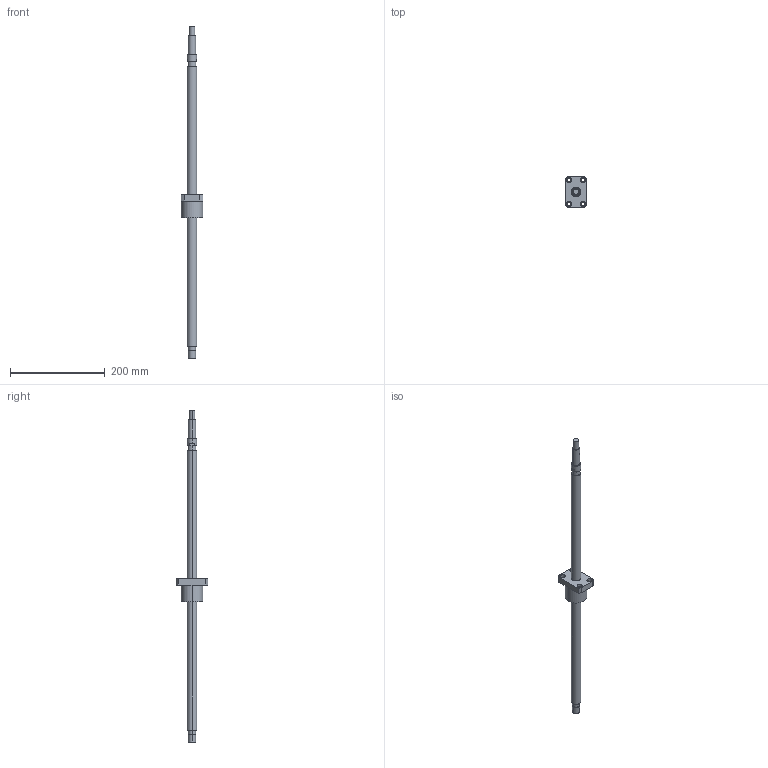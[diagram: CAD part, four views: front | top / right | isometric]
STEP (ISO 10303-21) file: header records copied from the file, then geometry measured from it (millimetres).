
FILE_DESCRIPTION((''),'2;1');
FILE_NAME('R20-10K3-FSC-589-699','2008-04-03T',('wcwu'),(''),'PRO/ENGINEER BY PARAMETRIC TECHNOLOGY CORPORATION, 2005070','PRO/ENGINEER BY PARAMETRIC TECHNOLOGY CORPORATION, 2005070','');
FILE_SCHEMA(('CONFIG_CONTROL_DESIGN'));
Length unit declared in the file: millimetre
Products named in the file (1): R20-10K3-FSC-589-699
Bounding box: 46 x 66 x 699 mm (x, y, z)
Volume: 283895.4 mm3; surface area: 54407 mm2
Topology: 1 solids, 1 shells, 65 faces, 146 edges, 96 vertices
Faces by surface type: cylinder 40, plane 25
Entity records: 1906 total; most frequent: DIRECTION 360, CARTESIAN_POINT 307, ORIENTED_EDGE 292, AXIS2_PLACEMENT_3D 149, EDGE_CURVE 146, VERTEX_POINT 96, EDGE_LOOP 86, CIRCLE 84
